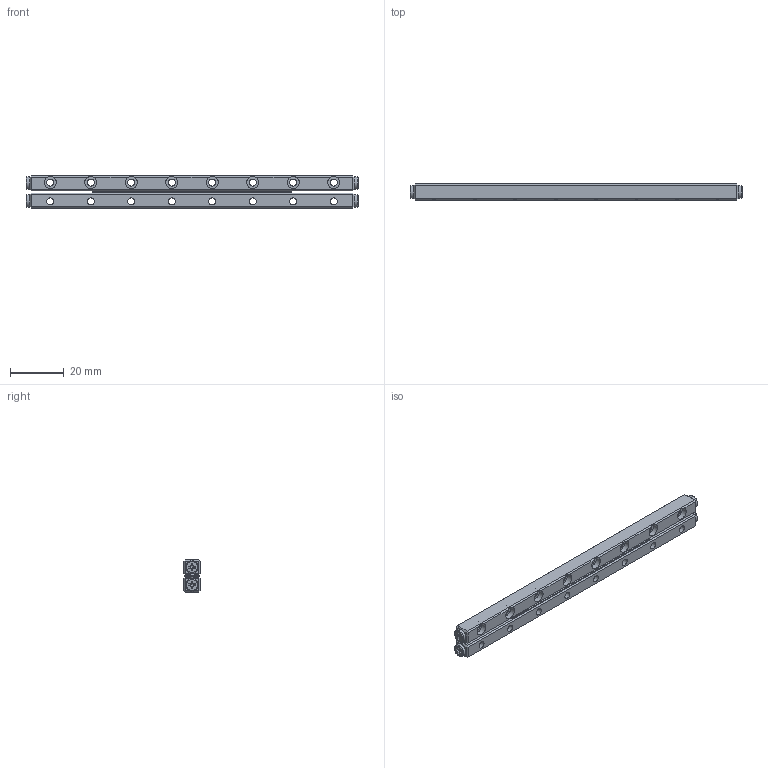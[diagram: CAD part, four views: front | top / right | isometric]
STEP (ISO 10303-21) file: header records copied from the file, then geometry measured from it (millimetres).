
FILE_DESCRIPTION (( 'STEP AP203' ), '1' );
FILE_NAME ('GRG02-0120-模糊化軌道組.STEP', '2022-10-05T08:20:42', ( '' ), ( '' ), 'SwSTEP 2.0', 'SolidWorks 2019', '' );
FILE_SCHEMA (( 'CONFIG_CONTROL_DESIGN' ));
Length unit declared in the file: millimetre
Products named in the file (1): GRG02-0120-模糊化軌道組
Bounding box: 123 x 6 x 12 mm (x, y, z)
Volume: 6997.5 mm3; surface area: 7644.6 mm2
Topology: 3 solids, 7 shells, 586 faces, 1388 edges, 880 vertices
Faces by surface type: plane 432, cylinder 74, cone 40, torus 40
Full cylindrical faces by diameter (mm): 2.1 x4, 2.6 x16, 4.5 x16, 4.7 x4
Entity records: 16513 total; most frequent: CARTESIAN_POINT 3527, ORIENTED_EDGE 2592, DIRECTION 2558, EDGE_CURVE 1296, LINE 888, VECTOR 888, VERTEX_POINT 844, AXIS2_PLACEMENT_3D 835
